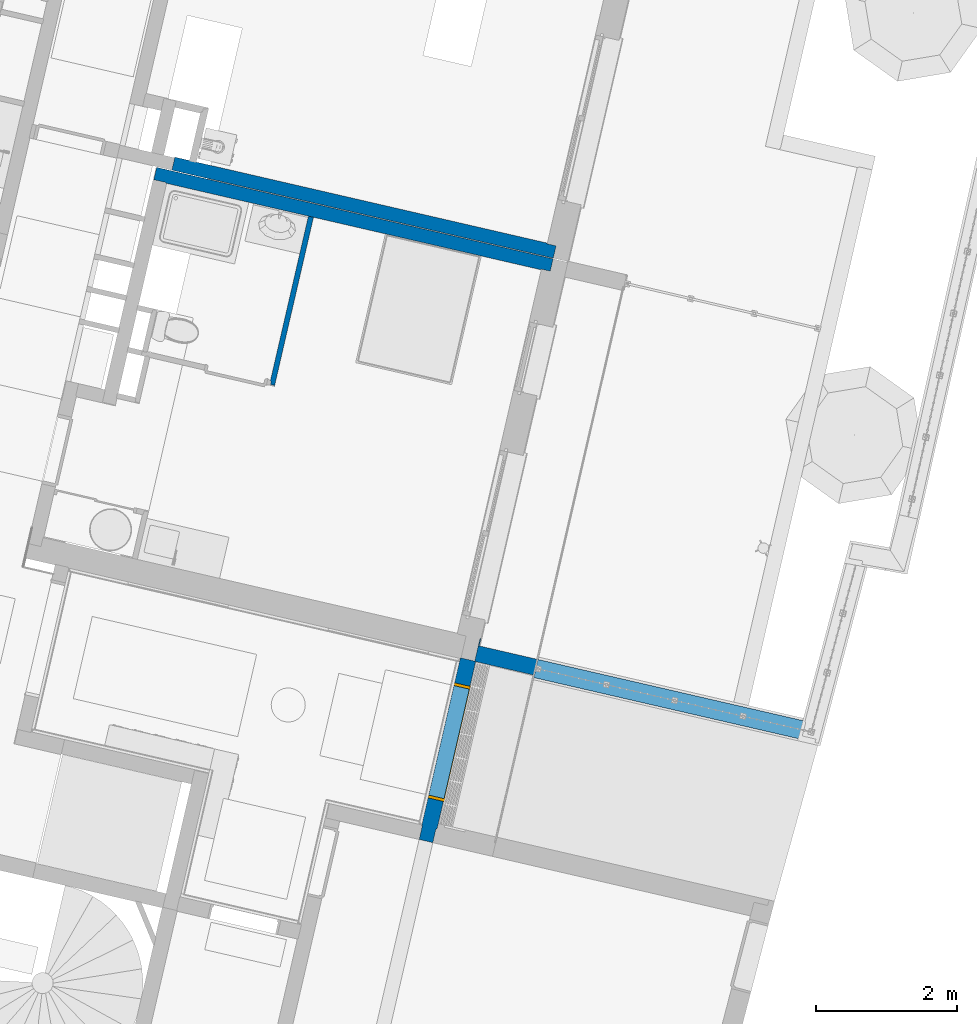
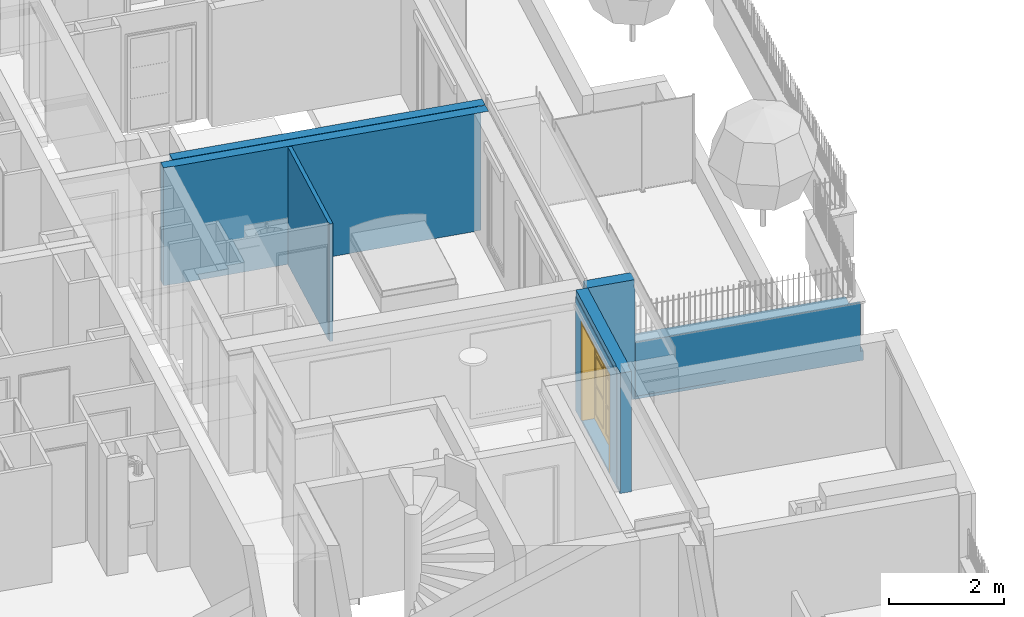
# One storey, part 57 of 119: 6 walls, 1 door, 1 opening.
"""IFC2X3 building model written with IfcOpenShell, lengths in metres."""

from ifc_helpers import new_model, entity, si_unit, converted_unit, derived_unit, money_unit, direction, frame, origin_with_axes, place, context, subcontext, project, spatial, faceted_brep, material, material_list, type_object, element, fill, save


model = new_model("IFC2X3")

# Units and contexts
model_context = context("Model", 3, precision=1e-05, world=origin_with_axes(), true_north=direction((0.0, 1.0)))
body_context = subcontext(model_context, "Body", "Model", "MODEL_VIEW")
ifc_project = project(units=[si_unit("LENGTHUNIT", "METRE"), si_unit("AREAUNIT", "SQUARE_METRE"), si_unit("VOLUMEUNIT", "CUBIC_METRE"), converted_unit("PLANEANGLEUNIT", "DEGREE", entity("IfcPlaneAngleMeasure", 0.0174532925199), si_unit("PLANEANGLEUNIT", "RADIAN"), dimensions=[0, 0, 0, 0, 0, 0, 0]), si_unit("SOLIDANGLEUNIT", "STERADIAN"), money_unit("EUR"), converted_unit("TIMEUNIT", "Year", entity("IfcTimeMeasure", 31556926.0), si_unit("TIMEUNIT", "SECOND"), dimensions=[0, 0, 1, 0, 0, 0, 0]), si_unit("MASSUNIT", "GRAM", prefix="KILO"), si_unit("THERMODYNAMICTEMPERATUREUNIT", "DEGREE_CELSIUS"), si_unit("LUMINOUSINTENSITYUNIT", "LUMEN"), si_unit("ENERGYUNIT", "JOULE", prefix="MEGA"), derived_unit("THERMALCONDUCTANCEUNIT", [(si_unit("POWERUNIT", "WATT"), 1), (si_unit("LENGTHUNIT", "METRE"), -1), (si_unit("THERMODYNAMICTEMPERATUREUNIT", "KELVIN"), -1)]), derived_unit("SPECIFICHEATCAPACITYUNIT", [(si_unit("ENERGYUNIT", "JOULE"), 1), (si_unit("MASSUNIT", "GRAM", prefix="KILO"), -1), (si_unit("THERMODYNAMICTEMPERATUREUNIT", "KELVIN"), -1)]), derived_unit("MASSDENSITYUNIT", [(si_unit("MASSUNIT", "GRAM", prefix="KILO"), 1), (si_unit("VOLUMEUNIT", "CUBIC_METRE"), -1)])], contexts=[model_context])

# Site, building, storey
site_placement = place(None, origin_with_axes())
site = spatial("IfcSite", under=ifc_project, at=site_placement, Name="Site", CompositionType="ELEMENT")
building_placement = place(site_placement, origin_with_axes())
building = spatial("IfcBuilding", under=site, at=building_placement, Name="Bâtiment", CompositionType="ELEMENT")
storey_placement = place(building_placement, origin_with_axes())
storey = spatial("IfcBuildingStorey", under=building, at=storey_placement, Name="Rez-de-chaussée", CompositionType="ELEMENT", Elevation=0.0)

# Walls
ifc_material_1 = material(Name="Finition int - Plaque de plâtre")
ifc_material_2 = material(Name="Isolation - Laine de roche")
ifc_material_list_1 = material_list([ifc_material_1, ifc_material_2, ifc_material_1])
wall_type_1 = type_object("IfcWallType", Name="3 - Cloison 72mm Placostil 74", PredefinedType="USERDEFINED")
wall_1_placement = place(storey_placement, frame((-5.67687845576, 3.20761547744, 0.0), z_axis=(0.0, 0.0, 1.0), x_axis=(-0.224876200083, -0.974387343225, 0.0)))
element("IfcWall", 1, at=wall_1_placement, inside=storey, type_object=wall_type_1, material=ifc_material_list_1, Name="Cloison Placostil 72/48", ObjectType="PARTITIONING", context=body_context, shape_type="Brep", body=[
    faceted_brep([(2.46805722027, -0.013, 2.5), (2.46805722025, 0.0, 2.5), (0.0, 0.0, 2.5), (0.0, -0.013, 2.5), (2.46805722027, -0.013, 0.0), (2.46805722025, 0.0, 0.0), (0.0, 0.0, 0.0), (0.0, -0.013, 0.0)], [[[0, 1, 2, 3]], [[1, 0, 4, 5]], [[1, 5, 6, 2]], [[7, 3, 2, 6]], [[4, 0, 3, 7]], [[5, 4, 7, 6]]]),
    faceted_brep([(2.45505722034, -0.061, 2.5), (2.45505722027, -0.013, 2.5), (0.0, -0.013, 2.5), (0.0, -0.061, 2.5), (2.45505722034, -0.061, 0.0), (2.45505722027, -0.013, 0.0), (0.0, -0.013, 0.0), (0.0, -0.061, 0.0)], [[[0, 1, 2, 3]], [[1, 0, 4, 5]], [[1, 5, 6, 2]], [[7, 3, 2, 6]], [[4, 0, 3, 7]], [[5, 4, 7, 6]]]),
    faceted_brep([(2.40705722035, -0.074, 2.5), (2.40705722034, -0.061, 2.5), (0.0, -0.061, 2.5), (0.0, -0.074, 2.5), (2.40705722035, -0.074, 0.0), (2.40705722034, -0.061, 0.0), (0.0, -0.061, 0.0), (0.0, -0.074, 0.0)], [[[0, 1, 2, 3]], [[1, 0, 4, 5]], [[1, 5, 6, 2]], [[7, 3, 2, 6]], [[4, 0, 3, 7]], [[5, 4, 7, 6]]]),
])
ifc_material_3 = material(Name="Béton")
ifc_material_4 = material(Name="Finition int - Enduit plâtre")
ifc_material_list_2 = material_list([ifc_material_3, ifc_material_4])
wall_type_2 = type_object("IfcWallType", Name="2 - Murs Béton 18 + Enduit 1 Face 190", PredefinedType="USERDEFINED")
wall_2_placement = place(storey_placement, frame((-7.91811591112, 3.91985888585, 0.0), z_axis=(0.0, 0.0, 1.0), x_axis=(0.974387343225, -0.224876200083, 0.0)))
element("IfcWall", 2, at=wall_2_placement, inside=storey, type_object=wall_type_2, material=ifc_material_list_2, Name="M_Ext-009", ObjectType="SOLIDWALL", context=body_context, shape_type="Brep", body=[
    faceted_brep([(0.0100000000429, -0.18, 2.51), (5.9311912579, -0.18, 2.51), (5.93119125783, 0.0, 2.51), (0.01, 0.0, 2.51), (5.79919126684, -0.18, 2.50955001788), (5.9311912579, -0.18, 2.50955), (0.0100000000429, -0.18, 0.0), (5.79919126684, -0.18, 0.0), (5.79919126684, -0.18, 0.133633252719), (5.79919126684, -0.18, 0.160000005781), (5.79919126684, -0.18, 0.169414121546), (5.79919126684, -0.18, 0.176532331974), (5.79919126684, -0.18, 0.207793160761), (5.93119125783, 0.0, 2.50955), (5.79919126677, 0.0, 2.50955001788), (5.79919126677, 0.0, 0.207793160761), (5.79919126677, 0.0, 0.176532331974), (5.79919126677, 0.0, 0.169414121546), (5.79919126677, 0.0, 0.160000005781), (5.79919126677, 0.0, 0.133633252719), (5.79919126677, 0.0, 0.0), (0.01, 0.0, 0.0)], [[[0, 1, 2, 3]], [[4, 5, 1, 0, 6, 7, 8, 9, 10, 11, 12]], [[5, 13, 2, 1]], [[3, 2, 13, 14, 15, 16, 17, 18, 19, 20, 21]], [[3, 21, 6, 0]], [[14, 13, 5, 4]], [[21, 20, 7, 6]], [[20, 19, 8, 7]], [[8, 19, 18, 9]], [[17, 10, 9, 18]], [[17, 16, 11, 10]], [[12, 11, 16, 15]], [[14, 4, 12, 15]]]),
    faceted_brep([(0.190000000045, -0.19, 2.51), (5.9311912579, -0.19, 2.51), (5.9311912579, -0.18, 2.51), (0.190000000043, -0.18, 2.51), (5.79919127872, -0.19, 2.50955001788), (5.9311912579, -0.19, 2.50955), (0.190000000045, -0.19, 0.0), (5.66919127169, -0.19, 0.0), (5.66919127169, -0.19, 0.133633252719), (5.66919127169, -0.19, 0.160000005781), (5.66919127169, -0.19, 0.169414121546), (5.66919127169, -0.19, 0.176532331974), (5.66919127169, -0.19, 0.207793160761), (5.66919127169, -0.19, 2.50955001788), (5.67919124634, -0.19, 2.50955001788), (5.9311912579, -0.18, 2.50955), (5.79919127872, -0.18, 2.50955001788), (5.67919124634, -0.18, 2.50955001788), (5.66919127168, -0.18, 2.50955001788), (5.66919127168, -0.18, 0.207793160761), (5.66919127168, -0.18, 0.176532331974), (5.66919127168, -0.18, 0.169414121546), (5.66919127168, -0.18, 0.160000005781), (5.66919127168, -0.18, 0.133633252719), (5.66919127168, -0.18, 0.0), (0.190000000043, -0.18, 0.0)], [[[0, 1, 2, 3]], [[4, 5, 1, 0, 6, 7, 8, 9, 10, 11, 12, 13, 14]], [[5, 15, 2, 1]], [[3, 2, 15, 16, 17, 18, 19, 20, 21, 22, 23, 24, 25]], [[3, 25, 6, 0]], [[16, 15, 5, 4]], [[7, 6, 25, 24]], [[24, 23, 8, 7]], [[22, 9, 8, 23]], [[21, 10, 9, 22]], [[11, 10, 21, 20]], [[12, 11, 20, 19]], [[18, 13, 12, 19]], [[17, 14, 13, 18]], [[17, 16, 4, 14]]]),
])
ifc_material_list_3 = material_list([ifc_material_4, ifc_material_3])
wall_3_placement = place(storey_placement, frame((-7.69175806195, 3.87788123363, 0.0), z_axis=(0.0, 0.0, 1.0), x_axis=(0.974387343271, -0.224876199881, 0.0)))
element("IfcWall", 3, at=wall_3_placement, inside=storey, type_object=wall_type_2, material=ifc_material_list_3, Name="M_Ext-009", ObjectType="SOLIDWALL", context=body_context, shape_type="Brep", body=[
    faceted_brep([(0.0, 0.18, 2.51), (5.70119129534, 0.18, 2.51), (5.70119129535, 0.19, 2.51), (0.0, 0.19, 2.51), (5.56919132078, 0.18, 2.50955001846), (5.70119129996, 0.18, 2.50955000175), (0.0, 0.18, 0.0), (5.43919131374, 0.18, 0.0), (5.43919131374, 0.18, 0.133633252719), (5.43919131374, 0.18, 0.160000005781), (5.43919131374, 0.18, 0.169414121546), (5.43919131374, 0.18, 0.176532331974), (5.43919131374, 0.18, 0.207793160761), (5.43919131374, 0.18, 2.50955001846), (5.4491912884, 0.18, 2.50955001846), (5.70119129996, 0.19, 2.50955000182), (5.56919132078, 0.19, 2.50955001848), (5.44919128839, 0.19, 2.50955001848), (5.43919131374, 0.19, 2.50955001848), (5.43919131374, 0.19, 0.207793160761), (5.43919131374, 0.19, 0.176532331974), (5.43919131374, 0.19, 0.169414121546), (5.43919131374, 0.19, 0.160000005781), (5.43919131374, 0.19, 0.133633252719), (5.43919131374, 0.19, 0.0), (0.0, 0.19, 0.0)], [[[0, 1, 2, 3]], [[4, 5, 1, 0, 6, 7, 8, 9, 10, 11, 12, 13, 14]], [[5, 15, 2, 1]], [[3, 2, 15, 16, 17, 18, 19, 20, 21, 22, 23, 24, 25]], [[0, 3, 25, 6]], [[16, 15, 5, 4]], [[7, 6, 25, 24]], [[24, 23, 8, 7]], [[22, 9, 8, 23]], [[21, 10, 9, 22]], [[11, 10, 21, 20]], [[12, 11, 20, 19]], [[18, 13, 12, 19]], [[17, 14, 13, 18]], [[17, 16, 4, 14]]]),
    faceted_brep([(0.0, 0.0, 2.51), (5.70119129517, 0.0, 2.51), (5.70119129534, 0.18, 2.51), (0.0, 0.18, 2.51), (5.56919130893, 0.0, 2.50955001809), (5.70119129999, 0.0, 2.50955000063), (0.0, 0.0, 0.0), (5.56919130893, 0.0, 0.0), (5.56919130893, 0.0, 0.133633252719), (5.56919130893, 0.0, 0.160000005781), (5.56919130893, 0.0, 0.169414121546), (5.56919130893, 0.0, 0.176532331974), (5.56919130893, 0.0, 0.207793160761), (5.70119129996, 0.18, 2.50955000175), (5.5691913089, 0.18, 2.50955001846), (5.5691913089, 0.18, 0.207793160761), (5.5691913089, 0.18, 0.176532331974), (5.5691913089, 0.18, 0.169414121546), (5.5691913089, 0.18, 0.160000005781), (5.5691913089, 0.18, 0.133633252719), (5.5691913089, 0.18, 0.0), (0.0, 0.18, 0.0)], [[[0, 1, 2, 3]], [[4, 5, 1, 0, 6, 7, 8, 9, 10, 11, 12]], [[5, 13, 2, 1]], [[3, 2, 13, 14, 15, 16, 17, 18, 19, 20, 21]], [[0, 3, 21, 6]], [[14, 13, 5, 4]], [[21, 20, 7, 6]], [[20, 19, 8, 7]], [[8, 19, 18, 9]], [[17, 10, 9, 18]], [[17, 16, 11, 10]], [[12, 11, 16, 15]], [[14, 4, 12, 15]]]),
])

# Wall, opening, door
ifc_material_5 = material(Name="Finition ext - Crépis")
ifc_material_list_4 = material_list([ifc_material_5, ifc_material_3, ifc_material_4])
wall_type_3 = type_object("IfcWallType", Name="1 - Mur Extérieur Béton 20+ ravalement 1 face+enduit 1 face 225", PredefinedType="STANDARD")
wall_4_placement = place(storey_placement, frame((-3.38284560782, -3.10659095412, -0.05), z_axis=(0.0, 0.0, 1.0), x_axis=(-0.224876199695, -0.974387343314, 0.0)))
wall_4 = element("IfcWall", 4, at=wall_4_placement, inside=storey, type_object=wall_type_3, material=ifc_material_list_4, Name="M_Ext-007", ObjectType="STANDARD", context=body_context, shape_type="Brep", body=[
    faceted_brep([(-0.330000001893, -1.09629513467e-07, 0.226532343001), (-0.330000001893, -3.48256139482e-08, 0.220774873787), (-1.89347426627e-09, -3.48345374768e-08, 0.220774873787), (-1.89347337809e-09, 0.0, 0.05), (0.000101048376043, 0.0, 0.05), (0.000101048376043, 0.0, 0.0), (2.64999999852, 0.0, 0.0), (2.64999999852, 0.0, 0.02), (2.44999999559, 0.0, 0.02), (2.44999999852, 0.0, 2.56), (-1.89347426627e-09, 0.0, 2.56), (-1.89347426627e-09, -1.09638437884e-07, 0.226532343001), (2.04499999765, 0.0, 0.05), (0.364999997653, 0.0, 0.05), (0.364999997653, 0.0, 2.13), (2.04499999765, 0.0, 2.13), (-0.330000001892, 0.0149999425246, 0.226532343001), (-0.330000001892, 0.015, 0.216324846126), (-1.89173698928e-09, 0.015, 0.216324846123), (-1.89173698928e-09, 0.015, 0.183633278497), (-1.89231563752e-09, 0.00999997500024, 0.183633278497), (-1.89231563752e-09, 0.00999997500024, 0.05), (0.0, 0.015, 0.05), (0.00010862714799, 0.015, 0.05), (0.000108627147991, 0.015, 0.0), (2.64999999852, 0.015, 0.0), (2.64999999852, 0.015, 0.02), (2.44999999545, 0.015, 0.02), (2.44999999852, 0.0149999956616, 2.56), (-1.89173698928e-09, 0.0149999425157, 2.56), (-1.89173698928e-09, 0.0149999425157, 0.226532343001), (2.04499999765, 0.015, 0.05), (0.364999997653, 0.015, 0.05), (0.364999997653, 0.015, 2.13), (2.04499999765, 0.015, 2.13), (-0.329999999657, 0.015, 0.05), (-0.330000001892, 0.015, 0.183633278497), (-0.330000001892, 0.00999997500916, 0.183633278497), (-0.330000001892, 0.00999997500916, 0.05)], [[[0, 1, 2, 3, 4, 5, 6, 7, 8, 9, 10, 11], [12, 13, 14, 15]], [[0, 16, 17, 1]], [[2, 1, 17, 18]], [[2, 18, 19, 20, 21, 3]], [[22, 23, 4, 3, 21]], [[23, 24, 5, 4]], [[5, 24, 25, 6]], [[25, 26, 7, 6]], [[7, 26, 27, 8]], [[8, 27, 28, 9]], [[10, 9, 28, 29]], [[30, 11, 10, 29]], [[30, 16, 0, 11]], [[31, 32, 13, 12]], [[32, 33, 14, 13]], [[33, 34, 15, 14]], [[34, 31, 12, 15]], [[28, 27, 26, 25, 24, 23, 22, 35, 36, 19, 18, 17, 16, 30, 29], [31, 34, 33, 32]], [[19, 36, 37, 20]], [[20, 37, 38, 21]], [[22, 21, 38, 35]], [[37, 36, 35, 38]]]),
    faceted_brep([(2.64999999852, -0.2, 0.0), (2.64999998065, -0.2, 0.05), (2.64999998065, -0.2, 2.56), (-1.91663351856e-09, -0.2, 2.55999999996), (-1.91663529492e-09, -0.200000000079, 0.05), (-1.91663529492e-09, -0.200000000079, 0.0), (2.04499999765, -0.2, 0.05), (0.364999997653, -0.2, 0.05), (0.364999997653, -0.2, 2.13), (2.04499999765, -0.2, 2.13), (2.64999999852, 0.0, 0.0), (2.64999998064, 0.0, 0.05), (2.64999998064, 0.0, 2.56), (-1.89347426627e-09, 0.0, 2.56), (-1.89347382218e-09, 0.0, 0.05), (0.000101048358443, -3.48345370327e-08, 0.05), (0.000101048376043, 0.0, 0.0), (2.04499999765, 0.0, 0.05), (0.364999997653, 0.0, 0.05), (0.364999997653, 0.0, 2.13), (2.04499999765, 0.0, 2.13)], [[[0, 1, 2, 3, 4, 5], [6, 7, 8, 9]], [[0, 10, 11, 1]], [[2, 1, 11, 12]], [[12, 13, 3, 2]], [[14, 4, 3, 13]], [[15, 16, 5, 4]], [[5, 16, 10, 0]], [[17, 18, 7, 6]], [[18, 19, 8, 7]], [[19, 20, 9, 8]], [[20, 17, 6, 9]], [[13, 12, 11, 10, 16, 15, 14], [17, 20, 19, 18]], [[15, 4, 14]]]),
    faceted_brep([(2.64999999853, -0.21, 0.05), (2.44999999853, -0.21, 0.05), (2.44999999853, -0.21, 2.56), (2.39999998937, -0.21, 2.56), (2.39999998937, -0.21, 2.427), (0.00999998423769, -0.21, 2.427), (0.00999999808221, -0.21, 0.05), (-1.91779170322e-09, -0.21, 0.05), (0.0, -0.21, 0.0), (2.64999999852, -0.21, 0.0), (2.04499999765, -0.21, 0.05), (0.364999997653, -0.21, 0.05), (0.364999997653, -0.21, 2.13), (2.04499999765, -0.21, 2.13), (2.64999999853, -0.2, 0.05), (2.44999999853, -0.2, 0.05), (2.44999999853, -0.2, 2.56), (2.39999998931, -0.2, 2.56), (2.39999998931, -0.2, 2.427), (0.00999998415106, -0.2, 2.427), (0.00999999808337, -0.2, 0.05), (-1.91663351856e-09, -0.2, 0.05), (0.0, -0.2, 0.0), (2.64999999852, -0.2, 0.0), (2.04499999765, -0.2, 0.05), (0.364999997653, -0.2, 0.05), (0.364999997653, -0.2, 2.13), (2.04499999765, -0.2, 2.13)], [[[0, 1, 2, 3, 4, 5, 6, 7, 8, 9], [10, 11, 12, 13]], [[0, 14, 15, 1]], [[1, 15, 16, 2]], [[17, 3, 2, 16]], [[18, 4, 3, 17]], [[18, 19, 5, 4]], [[5, 19, 20, 6]], [[6, 20, 21, 7]], [[8, 7, 21, 22]], [[8, 22, 23, 9]], [[23, 14, 0, 9]], [[24, 25, 11, 10]], [[25, 26, 12, 11]], [[26, 27, 13, 12]], [[27, 24, 10, 13]], [[22, 21, 20, 19, 18, 17, 16, 15, 14, 23], [24, 27, 26, 25]]]),
])
opening_placement = place(wall_4_placement, frame((1.20499999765, 0.0, 0.05), z_axis=(0.0, 0.0, 1.0), x_axis=(1.0, 0.0, 0.0)))
opening = element("IfcOpeningElement", 5, at=opening_placement, cuts=wall_4, Name="Porte métal 2V 160x204", context=body_context, shape_type="Brep", body=[
    faceted_brep([(0.84, -0.225, 0.0), (-0.84, -0.225, 0.0), (-0.84, 0.225, 0.0), (0.84, 0.225, 0.0), (0.84, -0.225, 2.08), (-0.84, -0.225, 2.08), (-0.84, 0.225, 2.08), (0.84, 0.225, 2.08)], [[[0, 1, 2, 3]], [[0, 4, 5, 1]], [[1, 5, 6, 2]], [[3, 2, 6, 7]], [[4, 0, 3, 7]], [[5, 4, 7, 6]]]),
])
door_style = type_object("IfcDoorStyle", Name="Porte int générique 2019", ConstructionType="NOTDEFINED", OperationType="DOUBLE_DOOR_SINGLE_SWING", ParameterTakesPrecedence=False, Sizeable=False)
door_placement = place(opening_placement, frame((-0.8, 0.0, 0.0), z_axis=(0.0, 0.0, 1.0), x_axis=(1.0, 0.0, 0.0)))
door = element("IfcDoor", 6, at=door_placement, inside=storey, type_object=door_style, Name="Porte métal 2V 160x204", ObjectType="DOOR", OverallHeight=2.04, OverallWidth=1.6, context=body_context, shape_type="Brep", body=[
    faceted_brep([(1.64, 0.015, 0.0), (1.6, 0.015, 0.0), (1.6, 0.015, 2.04), (0.0, 0.015, 2.04), (0.0, 0.015, 0.0), (-0.04, 0.015, 0.0), (-0.04, 0.015, 2.08), (1.64, 0.015, 2.08), (1.64, -0.21, 0.0), (1.6, -0.21, 0.0), (1.6, -0.21, 2.04), (0.0, -0.21, 2.04), (0.0, -0.21, 0.0), (-0.04, -0.21, 0.0), (-0.04, -0.21, 2.08), (1.64, -0.21, 2.08)], [[[0, 1, 2, 3, 4, 5, 6, 7]], [[0, 8, 9, 1]], [[1, 9, 10, 2]], [[2, 10, 11, 3]], [[3, 11, 12, 4]], [[5, 4, 12, 13]], [[14, 6, 5, 13]], [[15, 7, 6, 14]], [[8, 0, 7, 15]], [[9, 8, 15, 14, 13, 12, 11, 10]]]),
    faceted_brep([(1.65, 0.015, 0.0), (1.65, 0.025, 0.0), (1.65, 0.025, 2.09), (1.65, 0.015, 2.09), (1.62, 0.015, 0.0), (1.62, 0.025, 0.0), (1.62, 0.025, 2.06), (-0.02, 0.025, 2.06), (-0.02, 0.025, 0.0), (-0.05, 0.025, 0.0), (-0.05, 0.025, 2.09), (-0.05, 0.015, 2.09), (-0.05, 0.015, 0.0), (-0.02, 0.015, 0.0), (-0.02, 0.015, 2.06), (1.62, 0.015, 2.06)], [[[0, 1, 2, 3]], [[0, 4, 5, 1]], [[1, 5, 6, 7, 8, 9, 10, 2]], [[3, 2, 10, 11]], [[4, 0, 3, 11, 12, 13, 14, 15]], [[5, 4, 15, 6]], [[6, 15, 14, 7]], [[7, 14, 13, 8]], [[12, 9, 8, 13]], [[11, 10, 9, 12]]]),
    faceted_brep([(1.65, -0.22, 0.0), (1.65, -0.21, 0.0), (1.65, -0.21, 2.09), (1.65, -0.22, 2.09), (1.62, -0.22, 0.0), (1.62, -0.21, 0.0), (1.62, -0.21, 2.06), (-0.02, -0.21, 2.06), (-0.02, -0.21, 0.0), (-0.05, -0.21, 0.0), (-0.05, -0.21, 2.09), (-0.05, -0.22, 2.09), (-0.05, -0.22, 0.0), (-0.02, -0.22, 0.0), (-0.02, -0.22, 2.06), (1.62, -0.22, 2.06)], [[[0, 1, 2, 3]], [[0, 4, 5, 1]], [[1, 5, 6, 7, 8, 9, 10, 2]], [[3, 2, 10, 11]], [[4, 0, 3, 11, 12, 13, 14, 15]], [[5, 4, 15, 6]], [[6, 15, 14, 7]], [[7, 14, 13, 8]], [[12, 9, 8, 13]], [[11, 10, 9, 12]]]),
    faceted_brep([(-0.0175, 0.055, 0.0), (0.5975, 0.055, 0.0), (0.5975, 0.015, 0.0), (-0.0175, 0.015, 0.0), (-0.0175, 0.055, 2.06), (0.5975, 0.055, 2.06), (0.0425, 0.055, 0.12), (0.5375, 0.055, 0.12), (0.5375, 0.055, 0.733333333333), (0.0425, 0.055, 0.733333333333), (0.0425, 0.055, 0.753333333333), (0.5375, 0.055, 0.753333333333), (0.5375, 0.055, 1.36666666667), (0.0425, 0.055, 1.36666666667), (0.0425, 0.055, 1.38666666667), (0.5375, 0.055, 1.38666666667), (0.5375, 0.055, 2.0), (0.0425, 0.055, 2.0), (0.5975, 0.015, 2.06), (-0.0175, 0.015, 2.06), (0.0425, 0.015, 0.12), (0.0425, 0.015, 0.733333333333), (0.5375, 0.015, 0.733333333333), (0.5375, 0.015, 0.12), (0.0425, 0.015, 0.753333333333), (0.0425, 0.015, 1.36666666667), (0.5375, 0.015, 1.36666666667), (0.5375, 0.015, 0.753333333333), (0.0425, 0.015, 1.38666666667), (0.0425, 0.015, 2.0), (0.5375, 0.015, 2.0), (0.5375, 0.015, 1.38666666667)], [[[0, 1, 2, 3]], [[0, 4, 5, 1], [6, 7, 8, 9], [10, 11, 12, 13], [14, 15, 16, 17]], [[1, 5, 18, 2]], [[3, 2, 18, 19], [20, 21, 22, 23], [24, 25, 26, 27], [28, 29, 30, 31]], [[4, 0, 3, 19]], [[5, 4, 19, 18]], [[7, 6, 20, 23]], [[8, 7, 23, 22]], [[9, 8, 22, 21]], [[6, 9, 21, 20]], [[11, 10, 24, 27]], [[12, 11, 27, 26]], [[13, 12, 26, 25]], [[10, 13, 25, 24]], [[15, 14, 28, 31]], [[16, 15, 31, 30]], [[17, 16, 30, 29]], [[14, 17, 29, 28]]]),
    faceted_brep([(0.0425, 0.04, 0.12), (0.5375, 0.04, 0.12), (0.5375, 0.03, 0.12), (0.0425, 0.03, 0.12), (0.0425, 0.04, 0.733333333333), (0.5375, 0.04, 0.733333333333), (0.5375, 0.03, 0.733333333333), (0.0425, 0.03, 0.733333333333)], [[[0, 1, 2, 3]], [[0, 4, 5, 1]], [[1, 5, 6, 2]], [[3, 2, 6, 7]], [[4, 0, 3, 7]], [[5, 4, 7, 6]]]),
    faceted_brep([(0.0425, 0.04, 0.753333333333), (0.5375, 0.04, 0.753333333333), (0.5375, 0.03, 0.753333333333), (0.0425, 0.03, 0.753333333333), (0.0425, 0.04, 1.36666666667), (0.5375, 0.04, 1.36666666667), (0.5375, 0.03, 1.36666666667), (0.0425, 0.03, 1.36666666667)], [[[0, 1, 2, 3]], [[0, 4, 5, 1]], [[1, 5, 6, 2]], [[3, 2, 6, 7]], [[4, 0, 3, 7]], [[5, 4, 7, 6]]]),
    faceted_brep([(0.0425, 0.04, 1.38666666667), (0.5375, 0.04, 1.38666666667), (0.5375, 0.03, 1.38666666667), (0.0425, 0.03, 1.38666666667), (0.0425, 0.04, 2.0), (0.5375, 0.04, 2.0), (0.5375, 0.03, 2.0), (0.0425, 0.03, 2.0)], [[[0, 1, 2, 3]], [[0, 4, 5, 1]], [[1, 5, 6, 2]], [[3, 2, 6, 7]], [[4, 0, 3, 7]], [[5, 4, 7, 6]]]),
    faceted_brep([(1.62, 0.055, 0.0), (1.62, 0.015, 0.0), (0.6, 0.015, 0.0), (0.6, 0.055, 0.0), (1.62, 0.055, 2.06), (1.62, 0.015, 2.06), (0.6, 0.015, 2.06), (1.56, 0.015, 0.12), (0.66, 0.015, 0.12), (0.66, 0.015, 0.733333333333), (1.56, 0.015, 0.733333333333), (1.56, 0.015, 0.753333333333), (0.66, 0.015, 0.753333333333), (0.66, 0.015, 1.36666666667), (1.56, 0.015, 1.36666666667), (1.56, 0.015, 1.38666666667), (0.66, 0.015, 1.38666666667), (0.66, 0.015, 2.0), (1.56, 0.015, 2.0), (0.6, 0.055, 2.06), (1.56, 0.055, 0.12), (1.56, 0.055, 0.733333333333), (0.66, 0.055, 0.733333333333), (0.66, 0.055, 0.12), (1.56, 0.055, 0.753333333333), (1.56, 0.055, 1.36666666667), (0.66, 0.055, 1.36666666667), (0.66, 0.055, 0.753333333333), (1.56, 0.055, 1.38666666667), (1.56, 0.055, 2.0), (0.66, 0.055, 2.0), (0.66, 0.055, 1.38666666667)], [[[0, 1, 2, 3]], [[4, 5, 1, 0]], [[1, 5, 6, 2], [7, 8, 9, 10], [11, 12, 13, 14], [15, 16, 17, 18]], [[3, 2, 6, 19]], [[0, 3, 19, 4], [20, 21, 22, 23], [24, 25, 26, 27], [28, 29, 30, 31]], [[19, 6, 5, 4]], [[23, 8, 7, 20]], [[22, 9, 8, 23]], [[21, 10, 9, 22]], [[20, 7, 10, 21]], [[27, 12, 11, 24]], [[26, 13, 12, 27]], [[25, 14, 13, 26]], [[24, 11, 14, 25]], [[31, 16, 15, 28]], [[30, 17, 16, 31]], [[29, 18, 17, 30]], [[28, 15, 18, 29]]]),
    faceted_brep([(1.56, 0.04, 0.12), (1.56, 0.03, 0.12), (0.66, 0.03, 0.12), (0.66, 0.04, 0.12), (1.56, 0.04, 0.733333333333), (1.56, 0.03, 0.733333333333), (0.66, 0.03, 0.733333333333), (0.66, 0.04, 0.733333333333)], [[[0, 1, 2, 3]], [[4, 5, 1, 0]], [[1, 5, 6, 2]], [[3, 2, 6, 7]], [[0, 3, 7, 4]], [[7, 6, 5, 4]]]),
    faceted_brep([(1.56, 0.04, 0.753333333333), (1.56, 0.03, 0.753333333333), (0.66, 0.03, 0.753333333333), (0.66, 0.04, 0.753333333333), (1.56, 0.04, 1.36666666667), (1.56, 0.03, 1.36666666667), (0.66, 0.03, 1.36666666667), (0.66, 0.04, 1.36666666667)], [[[0, 1, 2, 3]], [[4, 5, 1, 0]], [[1, 5, 6, 2]], [[3, 2, 6, 7]], [[0, 3, 7, 4]], [[7, 6, 5, 4]]]),
    faceted_brep([(1.56, 0.04, 1.38666666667), (1.56, 0.03, 1.38666666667), (0.66, 0.03, 1.38666666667), (0.66, 0.04, 1.38666666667), (1.56, 0.04, 2.0), (1.56, 0.03, 2.0), (0.66, 0.03, 2.0), (0.66, 0.04, 2.0)], [[[0, 1, 2, 3]], [[4, 5, 1, 0]], [[1, 5, 6, 2]], [[3, 2, 6, 7]], [[0, 3, 7, 4]], [[7, 6, 5, 4]]]),
    faceted_brep([(0.615, 0.06, 0.0), (0.585, 0.06, 0.0), (0.585, 0.06, 2.06), (0.615, 0.06, 2.06), (0.615, 0.055, 0.0), (0.585, 0.055, 0.0), (0.585, 0.055, 2.06), (0.615, 0.055, 2.06)], [[[0, 1, 2, 3]], [[1, 0, 4, 5]], [[2, 1, 5, 6]], [[3, 2, 6, 7]], [[0, 3, 7, 4]], [[5, 4, 7, 6]]]),
])
fill(opening, door)

# Walls
ifc_material_6 = material(Name="Pierre")
ifc_material_7 = material(Name="Parpaing 20cm")
ifc_material_list_5 = material_list([ifc_material_6, ifc_material_7, ifc_material_5])
wall_type_4 = type_object("IfcWallType", Name="1 - Mur PARPAING 20 Endui + parement pierre 1 face 265", PredefinedType="ELEMENTEDWALL")
wall_5_placement = place(storey_placement, frame((1.50704934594, -4.27616792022, -0.03), z_axis=(0.0, 0.0, 1.0), x_axis=(-0.974387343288, 0.224876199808, 0.0)))
element("IfcWall", 7, at=wall_5_placement, inside=storey, type_object=wall_type_4, material=ifc_material_list_5, Name="Mur béton 20cm", ObjectType="ELEMENTEDWALL", context=body_context, shape_type="Brep", body=[
    faceted_brep([(4.1568531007, 0.0, 0.08), (0.0, 0.0, 0.08), (0.0, 0.0, 0.198463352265), (0.0500231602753, 0.0, 0.198463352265), (0.0500231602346, 0.0, 1.23), (4.1568531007, 0.0, 1.23), (4.1568531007, -0.0248781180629, 0.08), (0.0, 0.0, 0.0), (0.0, -0.0500000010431, 0.0), (0.0, -0.0500000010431, 0.198463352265), (0.0485011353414, -0.0500000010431, 0.198463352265), (0.0485011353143, -0.0499999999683, 1.23), (4.1568531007, -0.05, 1.23), (4.1568531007, -0.05, 0.03), (4.1568531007, -0.0394589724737, 0.03), (4.1568531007, -0.0394589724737, 0.0), (4.1568531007, -0.0248781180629, 0.0), (1.33895918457, -0.0380352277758, 0.0), (1.33890923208, -0.0500000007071, 0.0), (1.33890923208, -0.0499999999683, 0.03), (1.33895918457, -0.0380352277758, 0.03)], [[[0, 1, 2, 3, 4, 5]], [[1, 0, 6]], [[1, 7, 8, 9, 2]], [[3, 2, 9, 10]], [[3, 10, 11, 4]], [[5, 4, 11, 12]], [[6, 0, 5, 12, 13, 14, 15, 16]], [[16, 7, 1, 6]], [[7, 16, 15, 17, 18, 8]], [[19, 13, 12, 11, 10, 9, 8, 18]], [[13, 19, 20, 14]], [[17, 15, 14, 20]], [[19, 18, 17, 20]]]),
    faceted_brep([(1.33807423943, -0.249999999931, 0.03), (4.1568531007, -0.25, 0.03), (4.1568531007, -0.25, 1.23), (0.242505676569, -0.249999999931, 1.23), (0.242505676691, -0.250000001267, 0.198463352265), (0.0, -0.250000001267, 0.198463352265), (0.0, -0.250000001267, 0.0), (1.33807423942, -0.250000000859, 0.0), (1.33890923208, -0.0500000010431, 0.03), (4.1568531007, -0.05, 0.03), (4.1568531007, -0.05, 1.23), (0.248593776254, -0.0499999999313, 1.23), (0.24859377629, -0.0500000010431, 0.198463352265), (0.0, -0.0500000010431, 0.198463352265), (0.0, -0.0500000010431, 0.0), (1.33890923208, -0.0500000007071, 0.0)], [[[0, 1, 2, 3, 4, 5, 6, 7]], [[1, 0, 8, 9]], [[1, 9, 10, 2]], [[10, 11, 3, 2]], [[12, 4, 3, 11]], [[5, 4, 12, 13]], [[6, 5, 13, 14]], [[15, 7, 6, 14]], [[0, 7, 15, 8]], [[8, 15, 14, 13, 12, 11, 10, 9]]]),
    faceted_brep([(1.33801161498, -0.264999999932, 0.03), (4.1568531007, -0.265, 0.03), (4.1568531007, -0.265, 1.23), (0.257056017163, -0.264999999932, 1.23), (0.257056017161, -0.265, 0.198463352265), (0.0, -0.265, 0.198463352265), (0.0, -0.265, 0.0), (1.33801161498, -0.265, 0.0), (1.33807423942, -0.250000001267, 0.03), (4.1568531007, -0.25, 0.03), (4.1568531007, -0.25, 1.23), (0.257512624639, -0.249999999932, 1.23), (0.257512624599, -0.250000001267, 0.198463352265), (0.0, -0.250000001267, 0.198463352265), (0.0, -0.250000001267, 0.0), (1.33807423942, -0.250000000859, 0.0)], [[[0, 1, 2, 3, 4, 5, 6, 7]], [[1, 0, 8, 9]], [[1, 9, 10, 2]], [[10, 11, 3, 2]], [[12, 4, 3, 11]], [[5, 4, 12, 13]], [[6, 5, 13, 14]], [[15, 7, 6, 14]], [[0, 7, 15, 8]], [[8, 15, 14, 13, 12, 11, 10, 9]]]),
])
ifc_material_list_6 = material_list([ifc_material_5, ifc_material_3, ifc_material_5])
wall_type_5 = type_object("IfcWallType", Name="1 - Mur BETON 20+ ravalement 2 faces 230", PredefinedType="USERDEFINED")
wall_6_placement = place(storey_placement, frame((-2.48374351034, -3.0831779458, -0.03), z_axis=(0.0, 0.0, 1.0), x_axis=(-0.974387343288, 0.224876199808, 0.0)))
element("IfcWall", 8, at=wall_6_placement, inside=storey, type_object=wall_type_5, material=ifc_material_list_6, Name="M_Ext-010", ObjectType="SOLIDWALL", context=body_context, shape_type="Brep", body=[
    faceted_brep([(0.0, 0.225541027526, 0.0), (0.0, 0.225541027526, 0.03), (0.0, 0.214999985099, 0.03), (0.0, 0.214999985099, 2.375), (0.0, 0.229999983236, 2.375), (0.0, 0.229999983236, 0.0), (0.870808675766, 0.22510105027, 0.0), (0.870808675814, 0.225101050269, 0.03), (0.870808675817, 0.214999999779, 0.03), (0.870808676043, 0.214999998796, 0.163633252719), (0.860808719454, 0.214999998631, 0.163633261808), (0.845603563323, 0.214999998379, 0.163633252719), (0.844369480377, 0.214999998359, 0.163633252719), (0.844369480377, 0.214999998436, 0.190000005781), (0.844369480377, 0.214999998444, 0.192931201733), (0.866221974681, 0.214999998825, 0.199414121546), (0.870808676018, 0.214999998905, 0.200774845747), (0.870808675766, 0.215, 2.54), (0.0149999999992, 0.214999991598, 2.54), (0.0149999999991, 0.214999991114, 2.375), (0.0149999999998, 0.229999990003, 2.375), (0.860808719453, 0.22999999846, 0.163633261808), (0.870808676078, 0.229999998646, 0.163633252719), (0.870808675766, 0.23, 0.0), (0.0149999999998, 0.229999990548, 2.54), (0.870808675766, 0.23, 2.54), (0.87080867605, 0.229999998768, 0.200774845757), (0.866221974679, 0.229999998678, 0.199414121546), (0.844369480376, 0.22999999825, 0.192931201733), (0.844369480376, 0.22999999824, 0.190000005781), (0.844369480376, 0.229999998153, 0.163633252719), (0.845603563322, 0.229999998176, 0.163633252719)], [[[0, 1, 2, 3, 4, 5]], [[1, 0, 6, 7]], [[8, 2, 1, 7]], [[2, 8, 9, 10, 11, 12, 13, 14, 15, 16, 17, 18, 19, 3]], [[19, 20, 4, 3]], [[21, 22, 23, 5, 4, 20, 24, 25, 26, 27, 28, 29, 30, 31]], [[6, 0, 5, 23]], [[7, 6, 23, 22, 9, 8]], [[9, 22, 21, 10]], [[10, 21, 31, 11]], [[11, 31, 30, 12]], [[12, 30, 29, 13]], [[13, 29, 28, 14]], [[14, 28, 27, 15]], [[15, 27, 26, 16]], [[16, 26, 25, 17]], [[18, 17, 25, 24]], [[18, 24, 20, 19]]]),
    faceted_brep([(0.0, 0.214999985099, 0.03), (0.0, 0.0149999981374, 0.03), (0.0, 0.0149999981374, 2.375), (0.0, 0.214999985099, 2.375), (0.870808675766, 0.015, 0.03), (0.870808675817, 0.214999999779, 0.03), (0.870808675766, 0.015, 0.163633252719), (0.860808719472, 0.0149999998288, 0.163633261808), (0.845603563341, 0.0149999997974, 0.163633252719), (0.844369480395, 0.0149999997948, 0.163633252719), (0.844369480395, 0.0149999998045, 0.190000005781), (0.844369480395, 0.0149999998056, 0.192931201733), (0.866221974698, 0.0149999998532, 0.199414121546), (0.870808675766, 0.015, 0.200774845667), (0.870808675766, 0.015, 2.54), (0.0, 0.015, 2.54), (0.0, 0.215, 2.54), (0.870808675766, 0.215, 2.54), (0.870808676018, 0.214999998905, 0.200774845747), (0.866221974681, 0.214999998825, 0.199414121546), (0.844369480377, 0.214999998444, 0.192931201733), (0.844369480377, 0.214999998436, 0.190000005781), (0.844369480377, 0.214999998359, 0.163633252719), (0.845603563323, 0.214999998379, 0.163633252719), (0.860808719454, 0.214999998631, 0.163633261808), (0.870808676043, 0.214999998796, 0.163633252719)], [[[0, 1, 2, 3]], [[4, 1, 0, 5]], [[1, 4, 6, 7, 8, 9, 10, 11, 12, 13, 14, 15, 2]], [[16, 3, 2, 15]], [[5, 0, 3, 16, 17, 18, 19, 20, 21, 22, 23, 24, 25]], [[4, 5, 25, 6]], [[6, 25, 24, 7]], [[24, 23, 8, 7]], [[8, 23, 22, 9]], [[9, 22, 21, 10]], [[10, 21, 20, 11]], [[11, 20, 19, 12]], [[12, 19, 18, 13]], [[13, 18, 17, 14]], [[14, 17, 16, 15]]]),
    faceted_brep([(0.0, 0.0149999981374, 0.03), (0.0, 0.0, 0.03), (0.0, 0.0, 2.375), (0.0, 0.0149999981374, 2.375), (0.870808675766, 0.0, 0.03), (0.870808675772, 0.0149999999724, 0.03), (0.870808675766, 0.0, 0.163633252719), (0.860808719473, 0.0, 0.163633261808), (0.845603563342, 0.0, 0.163633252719), (0.844369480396, 0.0, 0.163633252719), (0.844369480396, 0.0, 0.190000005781), (0.844369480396, 0.0, 0.192931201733), (0.8662219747, 0.0, 0.199414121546), (0.870808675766, 0.0, 0.200774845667), (0.870808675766, 0.0, 2.54), (0.01499999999, 0.0, 2.54), (0.01499999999, 0.0, 2.375), (0.0149999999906, 0.0149999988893, 2.375), (0.0149999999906, 0.0149999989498, 2.54), (0.870808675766, 0.015, 2.54), (0.870808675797, 0.0149999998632, 0.200774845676), (0.866221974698, 0.0149999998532, 0.199414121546), (0.844369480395, 0.0149999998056, 0.192931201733), (0.844369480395, 0.0149999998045, 0.190000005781), (0.844369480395, 0.0149999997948, 0.163633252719), (0.845603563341, 0.0149999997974, 0.163633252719), (0.860808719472, 0.0149999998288, 0.163633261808), (0.8708086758, 0.0149999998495, 0.163633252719)], [[[0, 1, 2, 3]], [[4, 1, 0, 5]], [[1, 4, 6, 7, 8, 9, 10, 11, 12, 13, 14, 15, 16, 2]], [[16, 17, 3, 2]], [[5, 0, 3, 17, 18, 19, 20, 21, 22, 23, 24, 25, 26, 27]], [[4, 5, 27, 6]], [[6, 27, 26, 7]], [[7, 26, 25, 8]], [[8, 25, 24, 9]], [[9, 24, 23, 10]], [[10, 23, 22, 11]], [[11, 22, 21, 12]], [[12, 21, 20, 13]], [[13, 20, 19, 14]], [[15, 14, 19, 18]], [[15, 18, 17, 16]]]),
])

save(model, "model.ifc")
